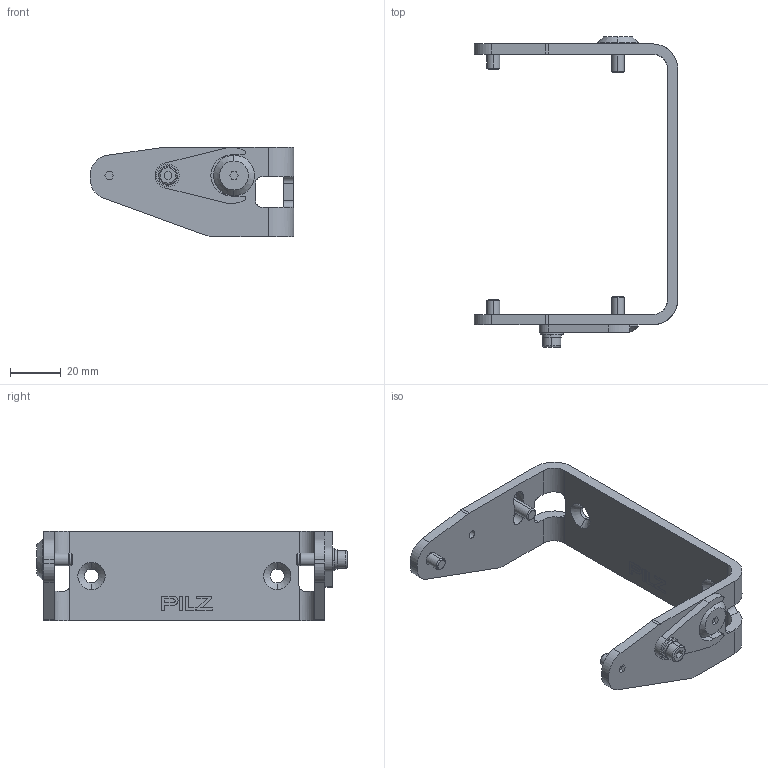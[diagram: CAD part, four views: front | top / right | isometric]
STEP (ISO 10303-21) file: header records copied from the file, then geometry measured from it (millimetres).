
FILE_DESCRIPTION((''),'2;1');
FILE_NAME('2024935','2018-07-03T',('rink'),(''),'PRO/ENGINEER BY PARAMETRIC TECHNOLOGY CORPORATION, 2015110','PRO/ENGINEER BY PARAMETRIC TECHNOLOGY CORPORATION, 2015110','');
FILE_SCHEMA(('AUTOMOTIVE_DESIGN { 1 0 10303 214 1 1 1 1 }'));
Length unit declared in the file: millimetre
Products named in the file (1): 2024935
Bounding box: 80 x 122 x 35 mm (x, y, z)
Volume: 32237.3 mm3; surface area: 19511.5 mm2
Topology: 1 solids, 1 shells, 219 faces, 581 edges, 391 vertices
Faces by surface type: plane 113, cylinder 80, cone 24, torus 2
Entity records: 8308 total; most frequent: CARTESIAN_POINT 1364, DIRECTION 1195, ORIENTED_EDGE 1144, EDGE_CURVE 572, AXIS2_PLACEMENT_3D 414, VERTEX_POINT 373, VECTOR 367, LINE 367
